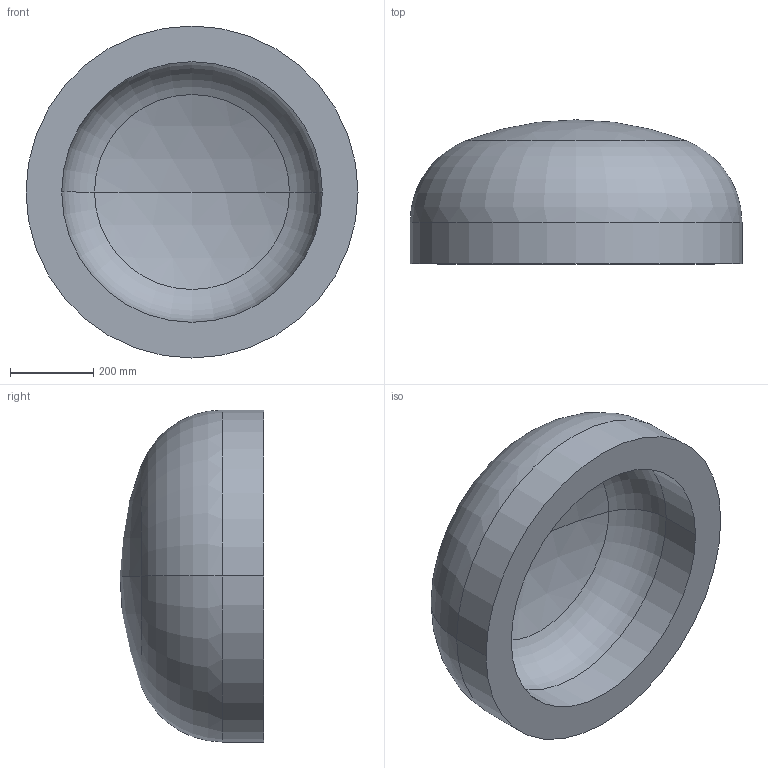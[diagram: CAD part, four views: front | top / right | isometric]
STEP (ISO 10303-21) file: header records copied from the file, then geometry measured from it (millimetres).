
FILE_DESCRIPTION (( 'STEP AP203' ), '1' );
FILE_NAME ('DIN 28013 Korbbogenform_-_Boden DIN 28013 - 800 x 100 - I - s=86.step', '2016-07-01T08:21:31', ( '' ), ( '' ), 'SwSTEP 2.0', 'SolidWorks 2013', '' );
FILE_SCHEMA (( 'CONFIG_CONTROL_DESIGN' ));
Length unit declared in the file: millimetre
Products named in the file (1): DIN 28013 Korbbogenform_-_Boden DIN 28013 - 800 x 100 - I - s=86
Bounding box: 800 x 346.93 x 800 mm (x, y, z)
Volume: 71902080.1 mm3; surface area: 1880537.7 mm2
Topology: 1 solids, 1 shells, 13 faces, 24 edges, 14 vertices
Faces by surface type: torus 4, cylinder 4, sphere 4, plane 1
Entity records: 407 total; most frequent: DIRECTION 72, CARTESIAN_POINT 52, ORIENTED_EDGE 48, AXIS2_PLACEMENT_3D 34, EDGE_CURVE 24, CIRCLE 20, EDGE_LOOP 14, VERTEX_POINT 14
